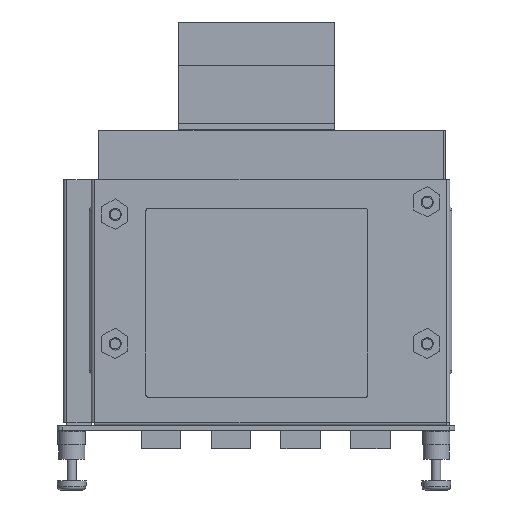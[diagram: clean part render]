
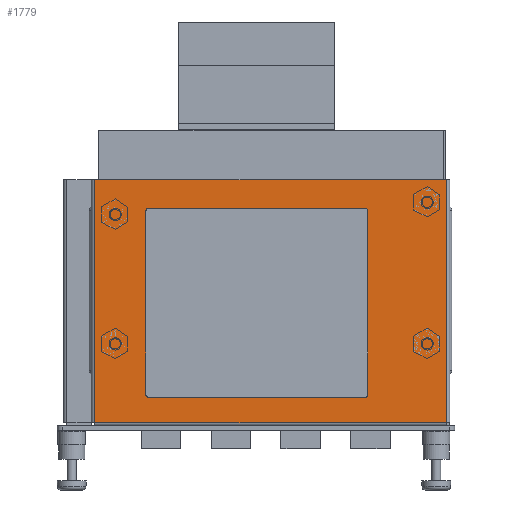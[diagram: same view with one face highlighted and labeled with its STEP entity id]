
A CAD part, front view. The second image highlights one B-rep face of the part: STEP entity #1779.
In plain terms, the highlighted planar face has unit normal (0, -1, 0).
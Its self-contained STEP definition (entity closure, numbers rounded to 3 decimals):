
#298=DIRECTION('',(-1.,0.,0.));
#299=VECTOR('',#298,85.7);
#300=CARTESIAN_POINT('',(46.2,-3.8,-22.));
#301=LINE('',#300,#299);
#302=DIRECTION('',(1.,0.,0.));
#303=VECTOR('',#302,53.);
#304=CARTESIAN_POINT('',(-26.5,-3.8,-29.));
#305=LINE('',#304,#303);
#306=CARTESIAN_POINT('',(-26.5,-3.8,-29.5));
#307=DIRECTION('',(0.,-1.,0.));
#308=DIRECTION('',(0.,0.,1.));
#309=AXIS2_PLACEMENT_3D('',#306,#307,#308);
#311=DIRECTION('',(0.,0.,1.));
#312=VECTOR('',#311,45.);
#313=CARTESIAN_POINT('',(-27.,-3.8,-74.5));
#314=LINE('',#313,#312);
#315=CARTESIAN_POINT('',(-26.5,-3.8,-74.5));
#316=DIRECTION('',(0.,-1.,0.));
#317=DIRECTION('',(-1.,0.,0.));
#318=AXIS2_PLACEMENT_3D('',#315,#316,#317);
#320=DIRECTION('',(-1.,0.,0.));
#321=VECTOR('',#320,53.);
#322=CARTESIAN_POINT('',(26.5,-3.8,-75.));
#323=LINE('',#322,#321);
#324=CARTESIAN_POINT('',(26.5,-3.8,-74.5));
#325=DIRECTION('',(0.,-1.,0.));
#326=DIRECTION('',(0.,0.,-1.));
#327=AXIS2_PLACEMENT_3D('',#324,#325,#326);
#329=DIRECTION('',(0.,0.,-1.));
#330=VECTOR('',#329,45.);
#331=CARTESIAN_POINT('',(27.,-3.8,-29.5));
#332=LINE('',#331,#330);
#333=CARTESIAN_POINT('',(26.5,-3.8,-29.5));
#334=DIRECTION('',(0.,-1.,0.));
#335=DIRECTION('',(1.,0.,0.));
#336=AXIS2_PLACEMENT_3D('',#333,#334,#335);
#343=DIRECTION('',(1.,0.,0.));
#344=VECTOR('',#343,85.7);
#345=CARTESIAN_POINT('',(-39.5,-3.8,-81.2));
#346=LINE('',#345,#344);
#431=DIRECTION('',(0.,0.,-1.));
#432=VECTOR('',#431,59.2);
#433=CARTESIAN_POINT('',(-39.5,-3.8,-22.));
#434=LINE('',#433,#432);
#765=DIRECTION('',(0.,0.,1.));
#766=VECTOR('',#765,59.2);
#767=CARTESIAN_POINT('',(46.2,-3.8,-81.2));
#768=LINE('',#767,#766);
#968=CARTESIAN_POINT('',(-39.5,-3.8,-81.2));
#969=VERTEX_POINT('',#968);
#970=CARTESIAN_POINT('',(46.2,-3.8,-81.2));
#971=VERTEX_POINT('',#970);
#976=CARTESIAN_POINT('',(-39.5,-3.8,-22.));
#977=VERTEX_POINT('',#976);
#984=CARTESIAN_POINT('',(46.2,-3.8,-22.));
#985=VERTEX_POINT('',#984);
#1064=CARTESIAN_POINT('',(-26.5,-3.8,-29.));
#1065=CARTESIAN_POINT('',(26.5,-3.8,-29.));
#1066=VERTEX_POINT('',#1064);
#1067=VERTEX_POINT('',#1065);
#1068=CARTESIAN_POINT('',(27.,-3.8,-29.5));
#1069=CARTESIAN_POINT('',(27.,-3.8,-74.5));
#1070=VERTEX_POINT('',#1068);
#1071=VERTEX_POINT('',#1069);
#1072=CARTESIAN_POINT('',(26.5,-3.8,-75.));
#1073=CARTESIAN_POINT('',(-26.5,-3.8,-75.));
#1074=VERTEX_POINT('',#1072);
#1075=VERTEX_POINT('',#1073);
#1076=CARTESIAN_POINT('',(-27.,-3.8,-74.5));
#1077=CARTESIAN_POINT('',(-27.,-3.8,-29.5));
#1078=VERTEX_POINT('',#1076);
#1079=VERTEX_POINT('',#1077);
#1747=CARTESIAN_POINT('',(0.,-3.8,0.));
#1748=DIRECTION('',(0.,1.,0.));
#1749=DIRECTION('',(0.,0.,1.));
#1750=AXIS2_PLACEMENT_3D('',#1747,#1748,#1749);
#1751=PLANE('',#1750);
#1753=ORIENTED_EDGE('',*,*,#1752,.F.);
#1755=ORIENTED_EDGE('',*,*,#1754,.F.);
#1756=ORIENTED_EDGE('',*,*,#1737,.F.);
#1758=ORIENTED_EDGE('',*,*,#1757,.F.);
#1759=EDGE_LOOP('',(#1753,#1755,#1756,#1758));
#1760=FACE_OUTER_BOUND('',#1759,.F.);
#1762=ORIENTED_EDGE('',*,*,#1761,.F.);
#1764=ORIENTED_EDGE('',*,*,#1763,.T.);
#1766=ORIENTED_EDGE('',*,*,#1765,.F.);
#1768=ORIENTED_EDGE('',*,*,#1767,.T.);
#1770=ORIENTED_EDGE('',*,*,#1769,.F.);
#1772=ORIENTED_EDGE('',*,*,#1771,.T.);
#1774=ORIENTED_EDGE('',*,*,#1773,.F.);
#1776=ORIENTED_EDGE('',*,*,#1775,.T.);
#1777=EDGE_LOOP('',(#1762,#1764,#1766,#1768,#1770,#1772,#1774,#1776));
#1778=FACE_BOUND('',#1777,.F.);
#1779=ADVANCED_FACE('',(#1760,#1778),#1751,.F.);
#310=CIRCLE('',#309,0.5);
#319=CIRCLE('',#318,0.5);
#328=CIRCLE('',#327,0.5);
#337=CIRCLE('',#336,0.5);
#1737=EDGE_CURVE('',#985,#977,#301,.T.);
#1752=EDGE_CURVE('',#969,#971,#346,.T.);
#1754=EDGE_CURVE('',#977,#969,#434,.T.);
#1757=EDGE_CURVE('',#971,#985,#768,.T.);
#1761=EDGE_CURVE('',#1066,#1067,#305,.T.);
#1763=EDGE_CURVE('',#1066,#1079,#310,.T.);
#1765=EDGE_CURVE('',#1078,#1079,#314,.T.);
#1767=EDGE_CURVE('',#1078,#1075,#319,.T.);
#1769=EDGE_CURVE('',#1074,#1075,#323,.T.);
#1771=EDGE_CURVE('',#1074,#1071,#328,.T.);
#1773=EDGE_CURVE('',#1070,#1071,#332,.T.);
#1775=EDGE_CURVE('',#1070,#1067,#337,.T.);
